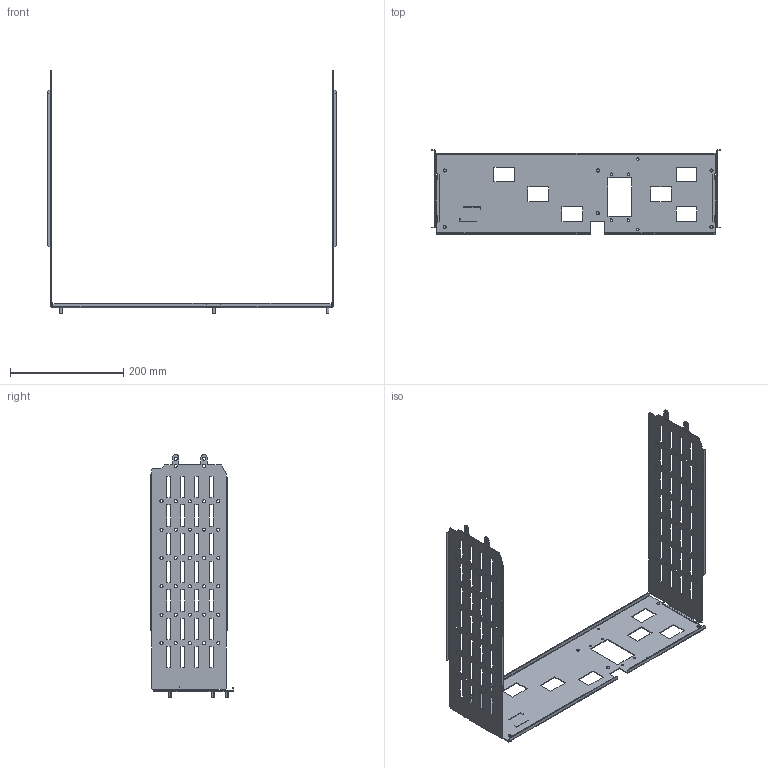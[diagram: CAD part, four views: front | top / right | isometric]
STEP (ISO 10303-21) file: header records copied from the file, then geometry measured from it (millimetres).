
FILE_DESCRIPTION(('CAx-IF Rec.Pracs.---Model Styling and Organization---1.2---2011-12-15','CAx-IF Rec.Pracs.---Geometric and Assembly Validation Properties---4.1---2014-06-16','CAx-IF Rec.Pracs.---PMI Polyline Presentation---2.0---2013-05-24'),'2;1');
FILE_NAME('R5M2W3M1A22.stp','2021-05-05T12:10:56+03:00',(''),(''),'STEP Interface 4.4 by CT CoreTechnologie','3D_Evolution4.4 by CT CoreTechnologie','');
FILE_SCHEMA(('AUTOMOTIVE_DESIGN { 1 0 10303 214 1 1 1 1 }'));
Length unit declared in the file: millimetre
Products named in the file (5): R5M2W3M1A22; M5x8-DIN7500C_stright; RB.1257.00.00.0_-00; RB.1285.00.00.0_-06; RB.1285.00.00.0_-07
Assembly tree (9 placements, depth 2):
  R5M2W3M1A22
    M5x8-DIN7500C_stright  x6
    RB.1257.00.00.0_-00
    RB.1285.00.00.0_-06
    RB.1285.00.00.0_-07
Bounding box: 510 x 147.5 x 428.6 mm (x, y, z)
Surface area: 341499.4 mm2 (no closed solid volume)
Topology: 0 solids, 11 shells, 634 faces, 1852 edges, 1232 vertices
Faces by surface type: plane 420, cylinder 214
Entity records: 21414 total; most frequent: CARTESIAN_POINT 3658, ORIENTED_EDGE 3644, DIRECTION 3482, EDGE_CURVE 1822, VECTOR 1410, LINE 1410, VERTEX_POINT 1212, AXIS2_PLACEMENT_3D 1036
